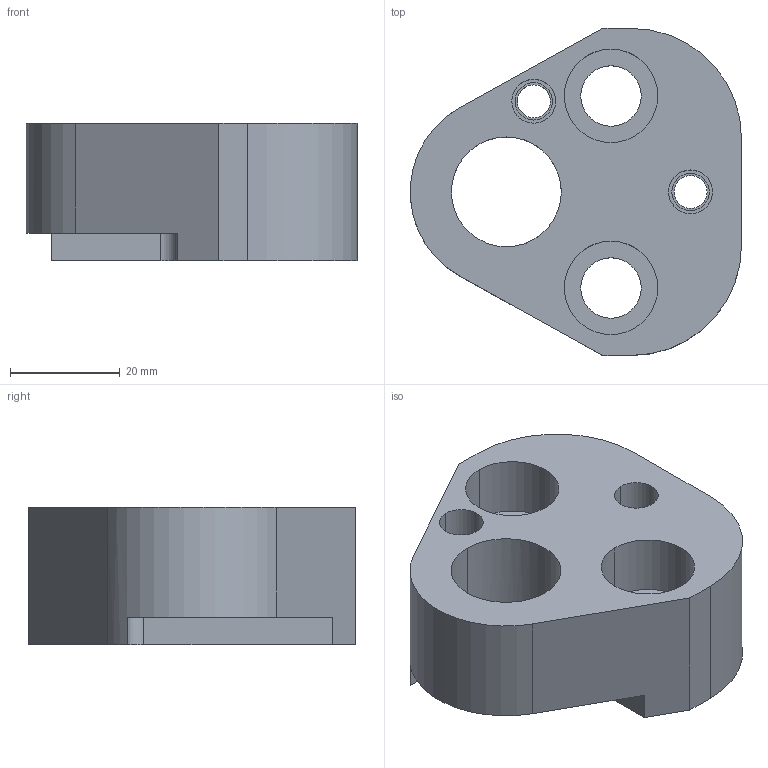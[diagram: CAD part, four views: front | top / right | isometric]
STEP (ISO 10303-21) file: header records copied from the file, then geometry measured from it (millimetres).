
FILE_DESCRIPTION(/* description */ (''),/* implementation_level */ '2;1');
FILE_NAME(/* name */ '3d_25crn-f20_03139_r00.stp',/* time_stamp */ '2011-01-10T14:17:54+09:00',/* author */ ('MISUMI'),/* organization */ (''),/* preprocessor_version */ 'ST-DEVELOPER v11',/* originating_system */ 'UGS - NX 5.0',/* authorisation */ '');
FILE_SCHEMA (('CONFIG_CONTROL_DESIGN'));
Length unit declared in the file: millimetre
Products named in the file (1): 3d_25crn-f20_03139_r00
Bounding box: 60.24 x 59.5 x 25 mm (x, y, z)
Volume: 47608.5 mm3; surface area: 13553.3 mm2
Topology: 1 solids, 1 shells, 44 faces, 110 edges, 73 vertices
Faces by surface type: cylinder 26, plane 16, cone 2
Entity records: 1449 total; most frequent: DIRECTION 255, CARTESIAN_POINT 231, ORIENTED_EDGE 220, EDGE_CURVE 110, AXIS2_PLACEMENT_3D 101, VERTEX_POINT 73, EDGE_LOOP 59, CIRCLE 56
